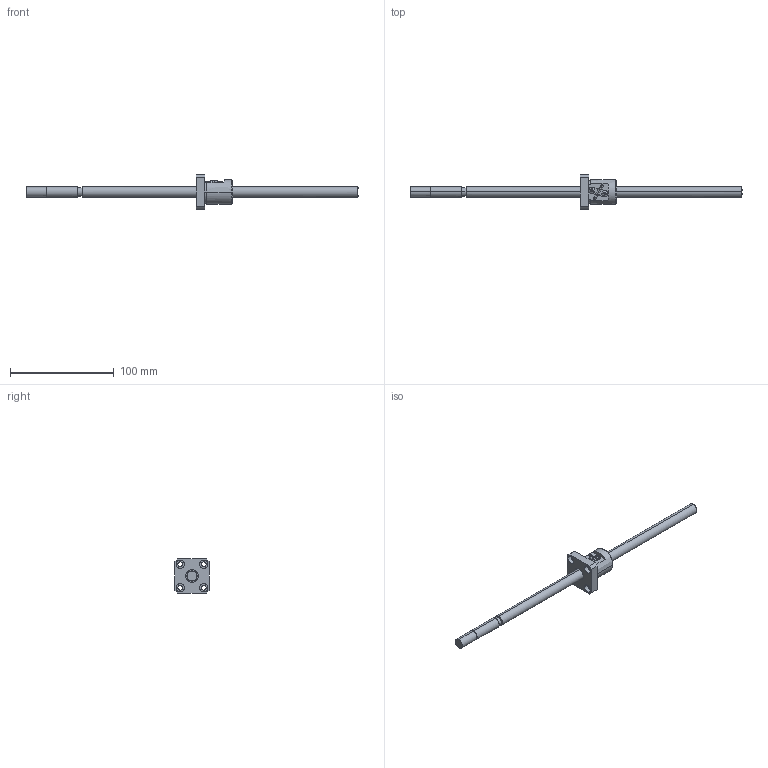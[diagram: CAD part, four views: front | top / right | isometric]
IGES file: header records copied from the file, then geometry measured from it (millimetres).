
Global section: file name: No Iges File Name specified; native system: AutoDesk Inventor R10; preprocessor: AutoDesk Inventor Iges Exporter R10; author: No Author specified; organization: No Organization specified; date: 20101224.135554; units: millimetre
Bounding box: 320 x 33 x 33 mm (x, y, z)
Surface area: 17184.7 mm2 (no closed solid volume)
Topology: 0 solids, 0 shells, 132 faces, 946 edges, 946 vertices
Faces by surface type: bspline 132
